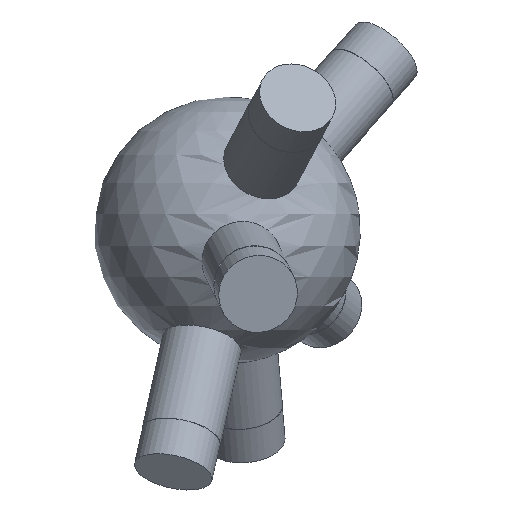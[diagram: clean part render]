
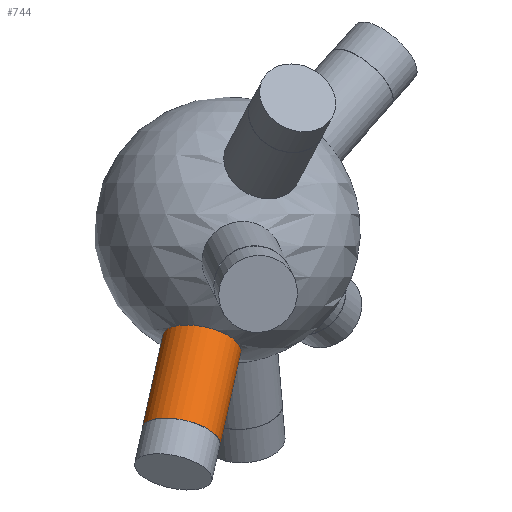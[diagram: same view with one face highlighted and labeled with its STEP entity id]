
A CAD part, front view. The second image highlights one B-rep face of the part: STEP entity #744.
In plain terms, the highlighted cylindrical face has radius 6 mm (diameter 12 mm), a full revolution.
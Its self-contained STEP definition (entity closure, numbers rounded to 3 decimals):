
#35 = SPHERICAL_SURFACE('',#36,20.);
#36 = AXIS2_PLACEMENT_3D('',#37,#38,#39);
#37 = CARTESIAN_POINT('',(0.,0.,0.));
#38 = DIRECTION('',(0.,0.,1.));
#39 = DIRECTION('',(1.,0.,-0.));
#223 = EDGE_CURVE('',#224,#224,#226,.T.);
#224 = VERTEX_POINT('',#225);
#225 = CARTESIAN_POINT('',(-3.778,-13.314,
    -14.438));
#226 = SURFACE_CURVE('',#227,(#232,#343),.PCURVE_S1.);
#227 = CIRCLE('',#228,6.);
#228 = AXIS2_PLACEMENT_3D('',#229,#230,#231);
#229 = CARTESIAN_POINT('',(-3.778,-7.871,
    -16.964));
#230 = DIRECTION('',(-0.198,-0.413,-0.889));
#231 = DIRECTION('',(0.,0.907,-0.421)
  );
#232 = PCURVE('',#35,#233);
#233 = DEFINITIONAL_REPRESENTATION('',(#234),#342);
#234 = B_SPLINE_CURVE_WITH_KNOTS('',8,(#235,#236,#237,#238,#239,#240,
    #241,#242,#243,#244,#245,#246,#247,#248,#249,#250,#251,#252,#253,
    #254,#255,#256,#257,#258,#259,#260,#261,#262,#263,#264,#265,#266,
    #267,#268,#269,#270,#271,#272,#273,#274,#275,#276,#277,#278,#279,
    #280,#281,#282,#283,#284,#285,#286,#287,#288,#289,#290,#291,#292,
    #293,#294,#295,#296,#297,#298,#299,#300,#301,#302,#303,#304,#305,
    #306,#307,#308,#309,#310,#311,#312,#313,#314,#315,#316,#317,#318,
    #319,#320,#321,#322,#323,#324,#325,#326,#327,#328,#329,#330,#331,
    #332,#333,#334,#335,#336,#337,#338,#339,#340,#341),.UNSPECIFIED.,.T.
  ,.F.,(9,7,7,7,7,7,7,7,7,7,7,7,7,7,7,9),(3.142,3.927,
    4.614,5.216,5.742,5.972,
    6.188,6.39,6.58,6.757,
    6.924,7.237,7.51,7.989,
    8.707,9.425),.UNSPECIFIED.);
#235 = CARTESIAN_POINT('',(4.436,-0.807));
#236 = CARTESIAN_POINT('',(4.395,-0.799));
#237 = CARTESIAN_POINT('',(4.353,-0.793));
#238 = CARTESIAN_POINT('',(4.311,-0.79));
#239 = CARTESIAN_POINT('',(4.269,-0.789));
#240 = CARTESIAN_POINT('',(4.227,-0.789));
#241 = CARTESIAN_POINT('',(4.186,-0.793));
#242 = CARTESIAN_POINT('',(4.144,-0.798));
#243 = CARTESIAN_POINT('',(4.067,-0.811));
#244 = CARTESIAN_POINT('',(4.031,-0.819));
#245 = CARTESIAN_POINT('',(3.996,-0.829));
#246 = CARTESIAN_POINT('',(3.961,-0.84));
#247 = CARTESIAN_POINT('',(3.927,-0.852));
#248 = CARTESIAN_POINT('',(3.893,-0.866));
#249 = CARTESIAN_POINT('',(3.861,-0.882));
#250 = CARTESIAN_POINT('',(3.801,-0.913));
#251 = CARTESIAN_POINT('',(3.774,-0.928));
#252 = CARTESIAN_POINT('',(3.748,-0.945));
#253 = CARTESIAN_POINT('',(3.723,-0.962));
#254 = CARTESIAN_POINT('',(3.699,-0.98));
#255 = CARTESIAN_POINT('',(3.676,-0.999));
#256 = CARTESIAN_POINT('',(3.655,-1.019));
#257 = CARTESIAN_POINT('',(3.618,-1.057));
#258 = CARTESIAN_POINT('',(3.603,-1.075));
#259 = CARTESIAN_POINT('',(3.588,-1.093));
#260 = CARTESIAN_POINT('',(3.576,-1.112));
#261 = CARTESIAN_POINT('',(3.565,-1.132));
#262 = CARTESIAN_POINT('',(3.557,-1.151));
#263 = CARTESIAN_POINT('',(3.552,-1.171));
#264 = CARTESIAN_POINT('',(3.55,-1.199));
#265 = CARTESIAN_POINT('',(3.55,-1.208));
#266 = CARTESIAN_POINT('',(3.55,-1.217));
#267 = CARTESIAN_POINT('',(3.552,-1.225));
#268 = CARTESIAN_POINT('',(3.555,-1.234));
#269 = CARTESIAN_POINT('',(3.558,-1.242));
#270 = CARTESIAN_POINT('',(3.563,-1.251));
#271 = CARTESIAN_POINT('',(3.574,-1.267));
#272 = CARTESIAN_POINT('',(3.58,-1.275));
#273 = CARTESIAN_POINT('',(3.588,-1.283));
#274 = CARTESIAN_POINT('',(3.597,-1.291));
#275 = CARTESIAN_POINT('',(3.607,-1.298));
#276 = CARTESIAN_POINT('',(3.619,-1.306));
#277 = CARTESIAN_POINT('',(3.633,-1.313));
#278 = CARTESIAN_POINT('',(3.662,-1.327));
#279 = CARTESIAN_POINT('',(3.678,-1.333));
#280 = CARTESIAN_POINT('',(3.696,-1.34));
#281 = CARTESIAN_POINT('',(3.716,-1.346));
#282 = CARTESIAN_POINT('',(3.737,-1.352));
#283 = CARTESIAN_POINT('',(3.761,-1.357));
#284 = CARTESIAN_POINT('',(3.787,-1.363));
#285 = CARTESIAN_POINT('',(3.841,-1.373));
#286 = CARTESIAN_POINT('',(3.87,-1.377));
#287 = CARTESIAN_POINT('',(3.9,-1.381));
#288 = CARTESIAN_POINT('',(3.932,-1.385));
#289 = CARTESIAN_POINT('',(3.967,-1.388));
#290 = CARTESIAN_POINT('',(4.003,-1.391));
#291 = CARTESIAN_POINT('',(4.041,-1.394));
#292 = CARTESIAN_POINT('',(4.117,-1.397));
#293 = CARTESIAN_POINT('',(4.155,-1.399));
#294 = CARTESIAN_POINT('',(4.194,-1.4));
#295 = CARTESIAN_POINT('',(4.233,-1.4));
#296 = CARTESIAN_POINT('',(4.272,-1.401));
#297 = CARTESIAN_POINT('',(4.312,-1.4));
#298 = CARTESIAN_POINT('',(4.351,-1.399));
#299 = CARTESIAN_POINT('',(4.425,-1.397));
#300 = CARTESIAN_POINT('',(4.46,-1.395));
#301 = CARTESIAN_POINT('',(4.494,-1.393));
#302 = CARTESIAN_POINT('',(4.527,-1.391));
#303 = CARTESIAN_POINT('',(4.558,-1.388));
#304 = CARTESIAN_POINT('',(4.588,-1.386));
#305 = CARTESIAN_POINT('',(4.617,-1.382));
#306 = CARTESIAN_POINT('',(4.695,-1.372));
#307 = CARTESIAN_POINT('',(4.74,-1.365));
#308 = CARTESIAN_POINT('',(4.78,-1.356));
#309 = CARTESIAN_POINT('',(4.814,-1.347));
#310 = CARTESIAN_POINT('',(4.843,-1.337));
#311 = CARTESIAN_POINT('',(4.869,-1.327));
#312 = CARTESIAN_POINT('',(4.89,-1.317));
#313 = CARTESIAN_POINT('',(4.924,-1.297));
#314 = CARTESIAN_POINT('',(4.937,-1.287));
#315 = CARTESIAN_POINT('',(4.948,-1.277));
#316 = CARTESIAN_POINT('',(4.957,-1.268));
#317 = CARTESIAN_POINT('',(4.964,-1.257));
#318 = CARTESIAN_POINT('',(4.97,-1.247));
#319 = CARTESIAN_POINT('',(4.974,-1.237));
#320 = CARTESIAN_POINT('',(4.981,-1.209));
#321 = CARTESIAN_POINT('',(4.982,-1.191));
#322 = CARTESIAN_POINT('',(4.979,-1.173));
#323 = CARTESIAN_POINT('',(4.974,-1.155));
#324 = CARTESIAN_POINT('',(4.967,-1.137));
#325 = CARTESIAN_POINT('',(4.957,-1.12));
#326 = CARTESIAN_POINT('',(4.946,-1.103));
#327 = CARTESIAN_POINT('',(4.915,-1.06));
#328 = CARTESIAN_POINT('',(4.893,-1.035));
#329 = CARTESIAN_POINT('',(4.869,-1.011));
#330 = CARTESIAN_POINT('',(4.842,-0.988));
#331 = CARTESIAN_POINT('',(4.814,-0.967));
#332 = CARTESIAN_POINT('',(4.784,-0.946));
#333 = CARTESIAN_POINT('',(4.752,-0.926));
#334 = CARTESIAN_POINT('',(4.687,-0.89));
#335 = CARTESIAN_POINT('',(4.654,-0.874));
#336 = CARTESIAN_POINT('',(4.619,-0.858));
#337 = CARTESIAN_POINT('',(4.584,-0.845));
#338 = CARTESIAN_POINT('',(4.547,-0.833));
#339 = CARTESIAN_POINT('',(4.511,-0.822));
#340 = CARTESIAN_POINT('',(4.473,-0.814));
#341 = CARTESIAN_POINT('',(4.436,-0.807));
#342 = ( GEOMETRIC_REPRESENTATION_CONTEXT(2) 
PARAMETRIC_REPRESENTATION_CONTEXT() REPRESENTATION_CONTEXT('2D SPACE',''
  ) );
#343 = PCURVE('',#344,#349);
#344 = CYLINDRICAL_SURFACE('',#345,6.);
#345 = AXIS2_PLACEMENT_3D('',#346,#347,#348);
#346 = CARTESIAN_POINT('',(0.,0.,0.));
#347 = DIRECTION('',(-0.198,-0.413,-0.889));
#348 = DIRECTION('',(0.,-0.907,0.421)
  );
#349 = DEFINITIONAL_REPRESENTATION('',(#350),#354);
#350 = LINE('',#351,#352);
#351 = CARTESIAN_POINT('',(-3.142,19.079));
#352 = VECTOR('',#353,1.);
#353 = DIRECTION('',(1.,0.));
#354 = ( GEOMETRIC_REPRESENTATION_CONTEXT(2) 
PARAMETRIC_REPRESENTATION_CONTEXT() REPRESENTATION_CONTEXT('2D SPACE',''
  ) );
#744 = ADVANCED_FACE('',(#745),#344,.T.);
#745 = FACE_BOUND('',#746,.T.);
#746 = EDGE_LOOP('',(#747,#770,#797,#798));
#747 = ORIENTED_EDGE('',*,*,#748,.T.);
#748 = EDGE_CURVE('',#224,#749,#751,.T.);
#749 = VERTEX_POINT('',#750);
#750 = CARTESIAN_POINT('',(-6.891,-19.799,
    -28.414));
#751 = SEAM_CURVE('',#752,(#756,#763),.PCURVE_S1.);
#752 = LINE('',#753,#754);
#753 = CARTESIAN_POINT('',(0.,-5.443,
    2.525));
#754 = VECTOR('',#755,1.);
#755 = DIRECTION('',(-0.198,-0.413,-0.889));
#756 = PCURVE('',#344,#757);
#757 = DEFINITIONAL_REPRESENTATION('',(#758),#762);
#758 = LINE('',#759,#760);
#759 = CARTESIAN_POINT('',(6.283,-0.));
#760 = VECTOR('',#761,1.);
#761 = DIRECTION('',(0.,1.));
#762 = ( GEOMETRIC_REPRESENTATION_CONTEXT(2) 
PARAMETRIC_REPRESENTATION_CONTEXT() REPRESENTATION_CONTEXT('2D SPACE',''
  ) );
#763 = PCURVE('',#344,#764);
#764 = DEFINITIONAL_REPRESENTATION('',(#765),#769);
#765 = LINE('',#766,#767);
#766 = CARTESIAN_POINT('',(0.,-0.));
#767 = VECTOR('',#768,1.);
#768 = DIRECTION('',(0.,1.));
#769 = ( GEOMETRIC_REPRESENTATION_CONTEXT(2) 
PARAMETRIC_REPRESENTATION_CONTEXT() REPRESENTATION_CONTEXT('2D SPACE',''
  ) );
#770 = ORIENTED_EDGE('',*,*,#771,.F.);
#771 = EDGE_CURVE('',#749,#749,#772,.T.);
#772 = SURFACE_CURVE('',#773,(#778,#785),.PCURVE_S1.);
#773 = CIRCLE('',#774,6.);
#774 = AXIS2_PLACEMENT_3D('',#775,#776,#777);
#775 = CARTESIAN_POINT('',(-6.891,-14.357,
    -30.94));
#776 = DIRECTION('',(-0.198,-0.413,-0.889));
#777 = DIRECTION('',(0.,-0.907,0.421)
  );
#778 = PCURVE('',#344,#779);
#779 = DEFINITIONAL_REPRESENTATION('',(#780),#784);
#780 = LINE('',#781,#782);
#781 = CARTESIAN_POINT('',(0.,34.798));
#782 = VECTOR('',#783,1.);
#783 = DIRECTION('',(1.,0.));
#784 = ( GEOMETRIC_REPRESENTATION_CONTEXT(2) 
PARAMETRIC_REPRESENTATION_CONTEXT() REPRESENTATION_CONTEXT('2D SPACE',''
  ) );
#785 = PCURVE('',#786,#791);
#786 = PLANE('',#787);
#787 = AXIS2_PLACEMENT_3D('',#788,#789,#790);
#788 = CARTESIAN_POINT('',(-6.891,-14.357,
    -30.94));
#789 = DIRECTION('',(-0.198,-0.413,-0.889));
#790 = DIRECTION('',(0.,-0.907,0.421)
  );
#791 = DEFINITIONAL_REPRESENTATION('',(#792),#796);
#792 = CIRCLE('',#793,6.);
#793 = AXIS2_PLACEMENT_2D('',#794,#795);
#794 = CARTESIAN_POINT('',(0.,0.));
#795 = DIRECTION('',(1.,0.));
#796 = ( GEOMETRIC_REPRESENTATION_CONTEXT(2) 
PARAMETRIC_REPRESENTATION_CONTEXT() REPRESENTATION_CONTEXT('2D SPACE',''
  ) );
#797 = ORIENTED_EDGE('',*,*,#748,.F.);
#798 = ORIENTED_EDGE('',*,*,#223,.T.);
